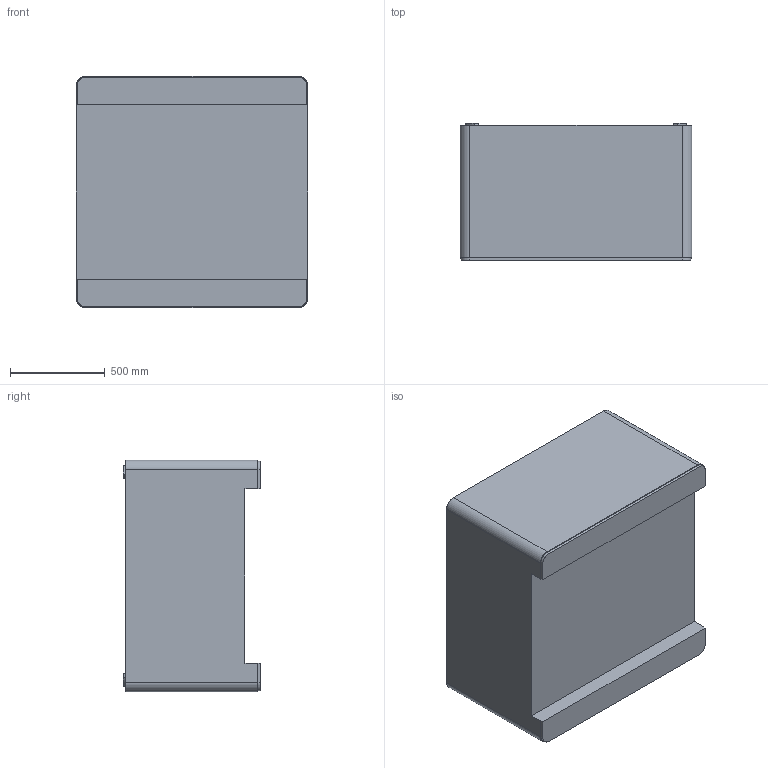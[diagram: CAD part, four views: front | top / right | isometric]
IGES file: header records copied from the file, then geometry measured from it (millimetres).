
Start section: SolidWorks IGES file using analytic representation for surfaces
Global section: file name: C:\Users\tnewton\Desktop\29FV 2-Way Block Model.IGS; native system: SolidWorks 2016; preprocessor: SolidWorks 2016; author: tnewton; date: 161018.104819; units: inch
Bounding box: 1219.2 x 722.63 x 1219.2 mm (x, y, z)
Surface area: 8847215.8 mm2 (no closed solid volume)
Topology: 0 solids, 0 shells, 59 faces, 632 edges, 632 vertices
Faces by surface type: bspline 39, revolution 20
